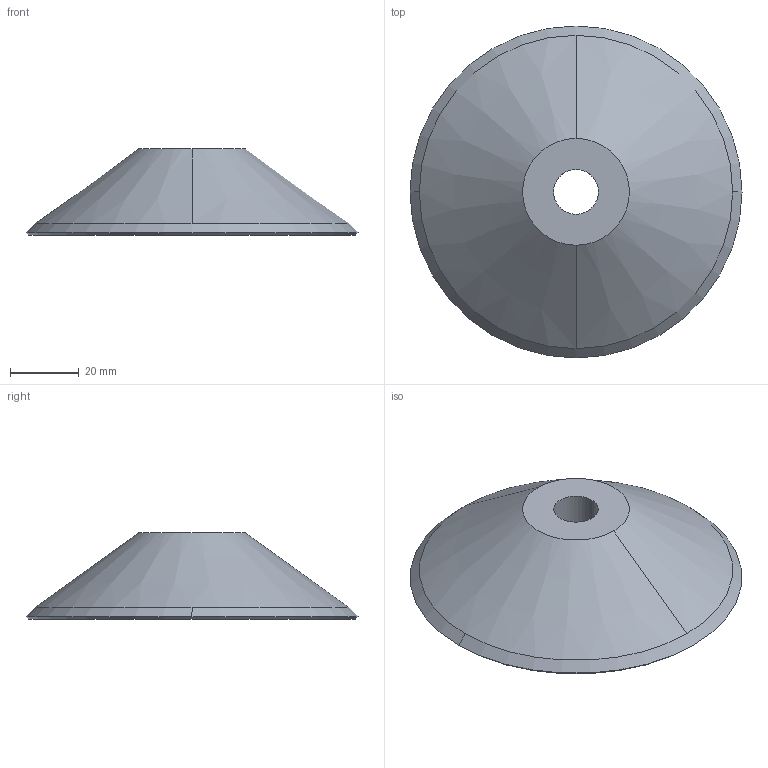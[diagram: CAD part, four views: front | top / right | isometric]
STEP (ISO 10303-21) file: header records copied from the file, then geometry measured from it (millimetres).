
FILE_DESCRIPTION(('STEP AP214'),'1');
FILE_NAME('10_01_01_00430.stp','2020-10-24T00:22:42',('TraceParts'),('TraceParts S.A.'),'Spatial InterOp 3D',' ',' ');
FILE_SCHEMA(('AUTOMOTIVE_DESIGN { 1 0 10303 214 1 1 1 1 }'));
Length unit declared in the file: millimetre
Products named in the file (1): 10_01_01_00430
Bounding box: 96.41 x 96.41 x 25 mm (x, y, z)
Volume: 45323.5 mm3; surface area: 18294.3 mm2
Topology: 1 solids, 1 shells, 26 faces, 54 edges, 34 vertices
Faces by surface type: cone 10, cylinder 10, plane 6
Entity records: 941 total; most frequent: DIRECTION 142, CARTESIAN_POINT 115, ORIENTED_EDGE 108, AXIS2_PLACEMENT_3D 61, EDGE_CURVE 54, VERTEX_POINT 34, CIRCLE 34, EDGE_LOOP 32
